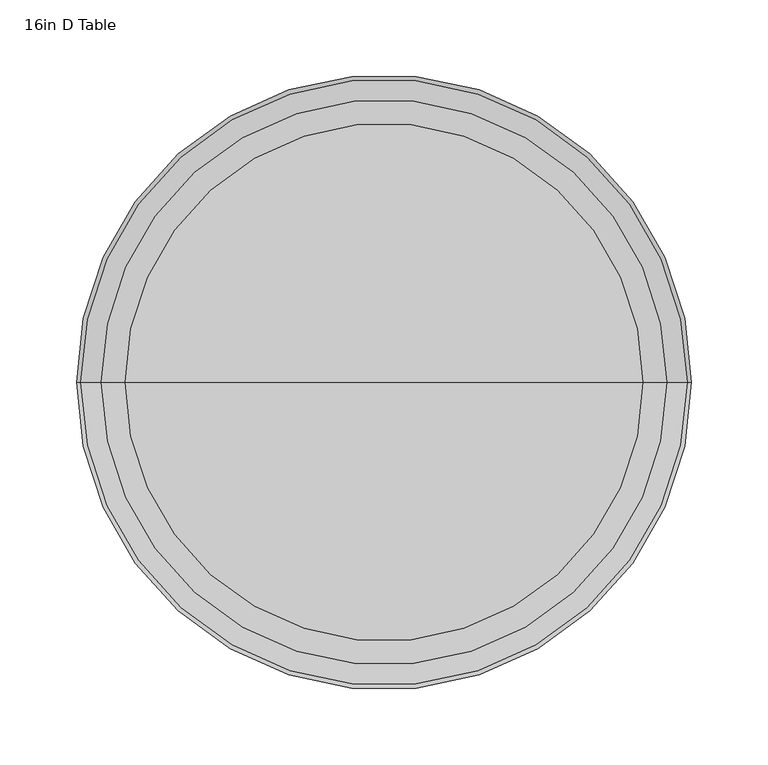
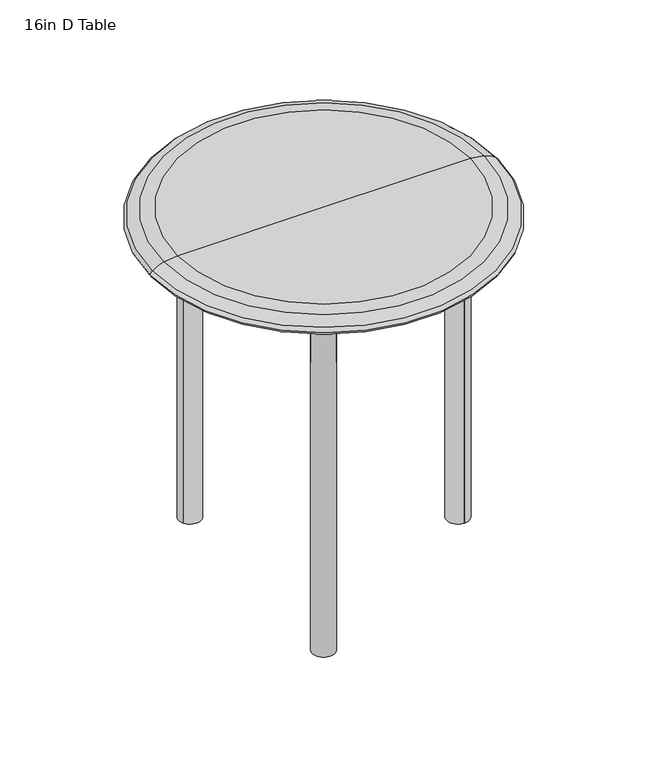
"""IFC4 building model written with IfcOpenShell, lengths in millimetres: furniture geometry, Haworth_Openest_SprigTable_Round : 16in D Table."""

from ifc_helpers import new_model, si_unit, point, frame, frame_2d, origin, place, context, project, spatial, polyline, circle_curve, ellipse_curve, trimmed, segment, composite_curve, outline, extrude, source, transform, mapped, element, save
from ifc_brep_helpers import plane_surface, cylinder_surface, revolved_surface, advanced_brep


def furniture_16in_d_table_f877d0f4(model_context):
    return source(origin(), model_context, "Body", "SolidModel", [
        extrude(outline(composite_curve([segment(polyline([(0.0, 0.0), (0.0, 155.7392297), (15.3769901, 155.7392297), (15.3769901, 40.3602375)]), True, "CONTINUOUS"), segment(trimmed(circle_curve(frame_2d((55.7372276, 40.3602375)), 40.3602375), [point((15.3769901, 40.3602375))], [point((55.7372276, 0.0))], True, "CARTESIAN"), True, "CONTINUOUS"), segment(polyline([(55.7372276, 0.0), (0.0, 0.0)]), True, "CONTINUOUS")], self_intersect=False)), frame((-88.9101098, -127.5088399, 406.7999998), z_axis=(0.8660254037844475, -0.49999999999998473, 0.0), x_axis=(0.0, 0.0, -1.0)), (0.0, 0.0, 1.0), 25.8000589),
        advanced_brep(
        [(-66.508095, -139.907471, 0.0031248), (-88.5051402, -127.207471, 0.0031248), (-88.5051402, -127.207471, 350.6439045), (-66.508095, -139.907471, 350.6439045), (-68.1155876, -91.89173, 391.4230097), (-46.1185424, -104.59173, 391.4230097), (11.1297809, -5.4347254, 391.4230097), (-10.8672643, 7.2652746, 391.4230097)],
        [
            (0, 1),
            (1, 0, circle_curve(frame((-77.5066176, -133.557471, 0.0031248), z_axis=(0.0, 0.0, -1.0), x_axis=(0.49999999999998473, 0.8660254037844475, 0.0)), 12.7)),
            (1, 2),
            (2, 3, circle_curve(frame((-77.5066176, -133.557471, 350.6439045), z_axis=(0.0, 0.0, -1.0), x_axis=(0.49999999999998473, 0.8660254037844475, 0.0)), 12.7)),
            (3, 0),
            (3, 2),
            (4, 5, circle_curve(frame((-57.117065, -98.24173, 391.4230097), z_axis=(-0.49999999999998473, -0.8660254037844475, 0.0), x_axis=(0.0, 0.0, -1.0)), 12.7)),
            (5, 3, circle_curve(frame((-46.1185424, -104.59173, 350.6439045), z_axis=(0.8660254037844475, -0.49999999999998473, 0.0), x_axis=(-0.49999999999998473, -0.8660254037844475, 0.0)), 40.7791052)),
            (2, 4, circle_curve(frame((-68.1155876, -91.89173, 350.6439045), z_axis=(-0.8660254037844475, 0.49999999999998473, 0.0), x_axis=(-0.49999999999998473, -0.8660254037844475, 0.0)), 40.7791052)),
            (5, 4),
            (6, 7, circle_curve(frame((0.1312583, 0.9152746, 391.4230097), z_axis=(0.49999999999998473, 0.8660254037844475, 0.0), x_axis=(0.0, 0.0, -1.0)), 12.7)),
            (7, 6),
            (4, 7),
            (6, 5),
        ],
        [
            plane_surface(frame((-65.9861853, -140.2087957, 0.0031248), z_axis=(0.0, 0.0, -1.0), x_axis=(0.8660254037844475, -0.49999999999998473, 0.0))),
            cylinder_surface(frame((-77.5066176, -133.557471, 0.0031248), z_axis=(0.0, 0.0, -1.0), x_axis=(0.49999999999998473, 0.8660254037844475, 0.0)), 12.7),
            plane_surface(frame((-88.5051402, -127.207471, 0.0031248), z_axis=(-0.4999999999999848, -0.8660254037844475, 0.0), x_axis=(0.0, 0.0, 1.0))),
            revolved_surface(trimmed(ellipse_curve(frame((-77.5066176, -133.557471, 350.6439045), z_axis=(0.0, 0.0, 1.0), x_axis=(0.49999999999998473, 0.8660254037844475, 0.0)), 12.7, 12.7), [point((-66.508095, -139.907471, 350.6439045))], [point((-88.5051402, -127.207471, 350.6439045))], True, "CARTESIAN"), (-45.5966327, -104.8930546, 350.6439045), (0.8660254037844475, -0.49999999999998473, 0.0)),
            cylinder_surface(frame((-45.5966327, -104.8930546, 350.6439045), z_axis=(0.8660254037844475, -0.49999999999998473, 0.0), x_axis=(-0.49999999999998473, -0.8660254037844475, 0.0)), 40.7791052),
            plane_surface(frame((11.6516906, -5.73605, 391.4230097), z_axis=(0.49999999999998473, 0.8660254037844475, 0.0), x_axis=(0.8660254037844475, -0.49999999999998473, 0.0))),
            cylinder_surface(frame((-57.117065, -98.24173, 391.4230097), z_axis=(-0.49999999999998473, -0.8660254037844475, 0.0), x_axis=(0.0, 0.0, -1.0)), 12.7),
            plane_surface(frame((-68.1155876, -91.89173, 391.4230097), z_axis=(0.0, 0.0, 1.0), x_axis=(0.49999999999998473, 0.8660254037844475, 0.0))),
        ],
        [
            (0, [[1, 2]]),
            (1, [[3, 4, 5, -2]]),
            (2, [[-5, 6, -3, -1]]),
            (3, [[7, 8, -4, 9]]),
            (4, [[10, -9, -6, -8]]),
            (5, [[11, 12]]),
            (6, [[13, -11, 14, -7]]),
            (7, [[-14, -12, -13, -10]]),
        ],
    ),
        extrude(outline(composite_curve([segment(trimmed(circle_curve(frame_2d((-77.5066176, -133.557471)), 12.9000295), [point((-66.3348644, -140.0074858))], [point((-88.6783708, -127.1074563))], False, "CARTESIAN"), True, "CONTINUOUS"), segment(polyline([(-88.6783708, -127.1074563), (-66.3348644, -140.0074858)]), True, "CONTINUOUS")], self_intersect=False)), frame((0.0, 0.0, 0.0031248), z_axis=(0.0, 0.0, 1.0), x_axis=(1.0, 0.0, 0.0)), (0.0, 0.0, 1.0), 406.796875),
        extrude(outline(composite_curve([segment(polyline([(0.0, 0.0), (0.0, -155.7392297), (-15.3769901, -155.7392297), (-15.3769901, -40.3602375)]), True, "CONTINUOUS"), segment(trimmed(circle_curve(frame_2d((-55.7372276, -40.3602375)), 40.3602375), [point((-15.3769901, -40.3602375))], [point((-55.7372276, 0.0))], True, "CARTESIAN"), True, "CONTINUOUS"), segment(polyline([(-55.7372276, 0.0), (0.0, 0.0)]), True, "CONTINUOUS")], self_intersect=False)), frame((-66.5666033, 140.4088694, 406.7999998), z_axis=(-0.8660254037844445, -0.49999999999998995, 0.0), x_axis=(0.0, 0.0, 1.0)), (0.0, 0.0, 1.0), 25.8000589),
        advanced_brep(
        [(-66.508095, 139.907471, 0.0031248), (-88.5051402, 127.207471, 0.0031248), (-66.508095, 139.907471, 350.6439045), (-88.5051402, 127.207471, 350.6439045), (-68.1155876, 91.89173, 391.4230097), (-46.1185424, 104.59173, 391.4230097), (11.1297809, 5.4347254, 391.4230097), (-10.8672643, -7.2652746, 391.4230097)],
        [
            (0, 1, circle_curve(frame((-77.5066176, 133.557471, 0.0031248), z_axis=(0.0, 0.0, -1.0), x_axis=(0.49999999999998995, -0.8660254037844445, 0.0)), 12.7)),
            (1, 0),
            (0, 2),
            (2, 3, circle_curve(frame((-77.5066176, 133.557471, 350.6439045), z_axis=(0.0, 0.0, -1.0), x_axis=(0.49999999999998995, -0.8660254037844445, 0.0)), 12.7)),
            (3, 1),
            (3, 2),
            (4, 3, circle_curve(frame((-68.1155876, 91.89173, 350.6439045), z_axis=(-0.8660254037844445, -0.49999999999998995, 0.0), x_axis=(-0.49999999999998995, 0.8660254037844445, 0.0)), 40.7791052)),
            (2, 5, circle_curve(frame((-46.1185424, 104.59173, 350.6439045), z_axis=(0.8660254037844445, 0.49999999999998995, 0.0), x_axis=(-0.49999999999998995, 0.8660254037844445, 0.0)), 40.7791052)),
            (5, 4, circle_curve(frame((-57.117065, 98.24173, 391.4230097), z_axis=(-0.49999999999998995, 0.8660254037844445, 0.0), x_axis=(0.0, 0.0, -1.0)), 12.7)),
            (4, 5),
            (6, 7),
            (7, 6, circle_curve(frame((0.1312583, -0.9152746, 391.4230097), z_axis=(0.49999999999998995, -0.8660254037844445, 0.0), x_axis=(0.0, 0.0, -1.0)), 12.7)),
            (5, 6),
            (7, 4),
        ],
        [
            plane_surface(frame((-65.9861853, 140.2087957, 0.0031248), z_axis=(0.0, 0.0, -1.0), x_axis=(0.8660254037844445, 0.49999999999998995, 0.0))),
            cylinder_surface(frame((-77.5066176, 133.557471, 0.0031248), z_axis=(0.0, 0.0, -1.0), x_axis=(0.49999999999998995, -0.8660254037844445, 0.0)), 12.7),
            plane_surface(frame((-88.5051402, 127.207471, 0.0031248), z_axis=(-0.49999999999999, 0.8660254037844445, 0.0), x_axis=(0.0, 0.0, 1.0))),
            revolved_surface(trimmed(ellipse_curve(frame((-77.5066176, 133.557471, 350.6439045), z_axis=(0.0, 0.0, -1.0), x_axis=(0.49999999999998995, -0.8660254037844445, 0.0)), 12.7, 12.7), [point((-66.508095, 139.907471, 350.6439045))], [point((-88.5051402, 127.207471, 350.6439045))], True, "CARTESIAN"), (-45.5966327, 104.8930546, 350.6439045), (0.8660254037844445, 0.49999999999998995, 0.0)),
            cylinder_surface(frame((-45.5966327, 104.8930546, 350.6439045), z_axis=(0.8660254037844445, 0.49999999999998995, 0.0), x_axis=(-0.49999999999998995, 0.8660254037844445, 0.0)), 40.7791052),
            plane_surface(frame((11.6516906, 5.73605, 391.4230097), z_axis=(0.49999999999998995, -0.8660254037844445, 0.0), x_axis=(0.8660254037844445, 0.49999999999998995, 0.0))),
            cylinder_surface(frame((-57.117065, 98.24173, 391.4230097), z_axis=(-0.49999999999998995, 0.8660254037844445, 0.0), x_axis=(0.0, 0.0, -1.0)), 12.7),
            plane_surface(frame((-68.1155876, 91.89173, 391.4230097), z_axis=(0.0, 0.0, 1.0), x_axis=(0.49999999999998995, -0.8660254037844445, 0.0))),
        ],
        [
            (0, [[1, 2]]),
            (1, [[-1, 3, 4, 5]]),
            (2, [[-2, -5, 6, -3]]),
            (3, [[7, -4, 8, 9]]),
            (4, [[-8, -6, -7, 10]]),
            (5, [[11, 12]]),
            (6, [[-9, 13, -12, 14]]),
            (7, [[-10, -14, -11, -13]]),
        ],
    ),
        extrude(outline(composite_curve([segment(polyline([(-66.3348644, 140.0074858), (-88.6783708, 127.1074563)]), True, "CONTINUOUS"), segment(trimmed(circle_curve(frame_2d((-77.5066176, 133.557471)), 12.9000295), [point((-88.6783708, 127.1074563))], [point((-66.3348644, 140.0074858))], False, "CARTESIAN"), True, "CONTINUOUS")], self_intersect=False)), frame((0.0, 0.0, 0.0031248), z_axis=(0.0, 0.0, 1.0), x_axis=(1.0, 0.0, 0.0)), (0.0, 0.0, 1.0), 406.796875),
        advanced_brep(
        [(154.8809495, -13.2439937, 406.7999998), (-0.8582802, -13.2439937, 406.7999998), (-0.8582802, -13.2439937, 391.4230097), (114.520712, -13.2439937, 391.4230097), (154.8809495, -13.2439937, 351.0627722), (154.8809495, 12.5560652, 406.7999998), (154.8809495, 12.5560652, 351.0627722), (114.520712, 12.5560652, 391.4230097), (-0.8582802, 12.5560652, 391.4230097), (-0.8582802, 12.5560652, 406.7999998)],
        [
            (0, 1),
            (1, 2),
            (2, 3),
            (3, 4, circle_curve(frame((114.520712, -13.2439937, 351.0627722), z_axis=(0.0, 1.0, 0.0), x_axis=(-1.0, 0.0, 0.0)), 40.3602375)),
            (4, 0),
            (5, 6),
            (6, 7, circle_curve(frame((114.520712, 12.5560652, 351.0627722), z_axis=(0.0, -1.0, 0.0), x_axis=(-1.0, 0.0, 0.0)), 40.3602375)),
            (7, 8),
            (8, 9),
            (9, 5),
            (4, 6),
            (5, 0),
            (3, 7),
            (2, 8),
            (1, 9),
        ],
        [
            plane_surface(frame((154.8809495, -13.2439937, 406.7999998), z_axis=(0.0, -1.0, 0.0), x_axis=(0.0, 0.0, -1.0))),
            plane_surface(frame((154.8809495, 12.5560652, 406.7999998), z_axis=(0.0, 1.0, 0.0), x_axis=(0.0, 0.0, 1.0))),
            plane_surface(frame((154.8809495, -13.2439937, 406.7999998), z_axis=(1.0, 0.0, 0.0), x_axis=(0.0, 1.0, 0.0))),
            revolved_surface(polyline([(74.1604745, 12.5560652, 351.0627722), (74.1604745, -13.243993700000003, 351.0627722)]), (114.520712, 12.5560652, 351.0627722), (0.0, 1.0, 0.0)),
            plane_surface(frame((114.520712, -13.2439937, 391.4230097), z_axis=(0.0, 0.0, -1.0), x_axis=(0.0, 1.0, 0.0))),
            plane_surface(frame((-0.8582802, -13.2439937, 391.4230097), z_axis=(-1.0, 0.0, 0.0), x_axis=(0.0, 1.0, 0.0))),
            plane_surface(frame((-0.8582802, -13.2439937, 406.7999998), z_axis=(0.0, 0.0, 1.0), x_axis=(0.0, 1.0, 0.0))),
        ],
        [
            (0, [[1, 2, 3, 4, 5]]),
            (1, [[6, 7, 8, 9, 10]]),
            (2, [[11, -6, 12, -5]]),
            (3, [[13, -7, -11, -4]]),
            (4, [[14, -8, -13, -3]]),
            (5, [[15, -9, -14, -2]]),
            (6, [[-12, -10, -15, -1]]),
        ],
    ),
        advanced_brep(
        [(154.4174716, 12.3560357, 0.0031248), (154.4174716, -13.0439643, 0.0031248), (154.4174716, -13.0439643, 350.6439045), (154.4174716, 12.3560357, 350.6439045), (113.6383663, -13.0439643, 391.4230097), (113.6383663, 12.3560357, 391.4230097), (-0.8582802, 12.3560357, 391.4230097), (-0.8582802, -13.0439643, 391.4230097)],
        [
            (0, 1),
            (1, 0, circle_curve(frame((154.4174716, -0.3439643, 0.0031248), z_axis=(0.0, 0.0, -1.0), x_axis=(-1.0, 0.0, 0.0)), 12.7)),
            (1, 2),
            (2, 3, circle_curve(frame((154.4174716, -0.3439643, 350.6439045), z_axis=(0.0, 0.0, -1.0), x_axis=(-1.0, 0.0, 0.0)), 12.7)),
            (3, 0),
            (3, 2),
            (4, 5, circle_curve(frame((113.6383663, -0.3439643, 391.4230097), z_axis=(1.0, 0.0, 0.0), x_axis=(0.0, 0.0, -1.0)), 12.7)),
            (5, 3, circle_curve(frame((113.6383663, 12.3560357, 350.6439045), z_axis=(0.0, 1.0, 0.0), x_axis=(1.0, 0.0, 0.0)), 40.7791052)),
            (2, 4, circle_curve(frame((113.6383663, -13.0439643, 350.6439045), z_axis=(0.0, -1.0, 0.0), x_axis=(1.0, 0.0, 0.0)), 40.7791052)),
            (5, 4),
            (6, 7, circle_curve(frame((-0.8582802, -0.3439643, 391.4230097), z_axis=(-1.0, 0.0, 0.0), x_axis=(0.0, 0.0, -1.0)), 12.7)),
            (7, 6),
            (4, 7),
            (6, 5),
        ],
        [
            plane_surface(frame((154.4174716, 12.958685, 0.0031248), z_axis=(0.0, 0.0, -1.0), x_axis=(0.0, 1.0, 0.0))),
            cylinder_surface(frame((154.4174716, -0.3439643, 0.0031248), z_axis=(0.0, 0.0, -1.0), x_axis=(-1.0, 0.0, 0.0)), 12.7),
            plane_surface(frame((154.4174716, -13.0439643, 0.0031248), z_axis=(1.0, 0.0, 0.0), x_axis=(0.0, 0.0, 1.0))),
            revolved_surface(trimmed(ellipse_curve(frame((154.4174716, -0.3439643, 350.6439045), z_axis=(0.0, 0.0, 1.0), x_axis=(-1.0, 0.0, 0.0)), 12.7, 12.7), [point((154.4174716, 12.3560357, 350.6439045))], [point((154.4174716, -13.0439643, 350.6439045))], True, "CARTESIAN"), (113.6383663, 12.958685, 350.6439045), (0.0, 1.0, 0.0)),
            cylinder_surface(frame((113.6383663, 12.958685, 350.6439045), z_axis=(0.0, 1.0, 0.0), x_axis=(1.0, 0.0, 0.0)), 40.7791052),
            plane_surface(frame((-0.8582802, 12.958685, 391.4230097), z_axis=(-1.0, 0.0, 0.0), x_axis=(0.0, 1.0, 0.0))),
            cylinder_surface(frame((113.6383663, -0.3439643, 391.4230097), z_axis=(1.0, 0.0, 0.0), x_axis=(0.0, 0.0, -1.0)), 12.7),
            plane_surface(frame((113.6383663, -13.0439643, 391.4230097), z_axis=(0.0, 0.0, 1.0), x_axis=(-1.0, 0.0, 0.0))),
        ],
        [
            (0, [[1, 2]]),
            (1, [[3, 4, 5, -2]]),
            (2, [[-5, 6, -3, -1]]),
            (3, [[7, 8, -4, 9]]),
            (4, [[10, -9, -6, -8]]),
            (5, [[11, 12]]),
            (6, [[13, -11, 14, -7]]),
            (7, [[-14, -12, -13, -10]]),
        ],
    ),
        extrude(outline(composite_curve([segment(trimmed(circle_curve(frame_2d((154.4174716, -0.3439643)), 12.9000295), [point((154.4174716, 12.5560652))], [point((154.4174716, -13.2439937))], False, "CARTESIAN"), True, "CONTINUOUS"), segment(polyline([(154.4174716, -13.2439937), (154.4174716, 12.5560652)]), True, "CONTINUOUS")], self_intersect=False)), frame((0.0, 0.0, 0.0031248), z_axis=(0.0, 0.0, 1.0), x_axis=(1.0, 0.0, 0.0)), (0.0, 0.0, 1.0), 406.796875),
        advanced_brep(
        [(169.0459554, 0.0, 431.8), (-169.0459554, 0.0, 431.8), (0.0, 0.0, 431.8), (184.6187293, 0.0, 429.6461404), (-184.6187293, 0.0, 429.6461404), (197.9469444, 0.0, 423.4310916), (-197.9469444, 0.0, 423.4310916), (200.8395659, 0.0, 419.2999999), (-200.8395659, 0.0, 419.2999999), (197.9469444, 0.0, 415.1689082), (-197.9469444, 0.0, 415.1689082), (184.6187293, 0.0, 408.9538594), (-184.6187293, 0.0, 408.9538594), (169.0459554, 0.0, 406.7999998), (-169.0459554, 0.0, 406.7999998), (0.0, 0.0, 406.7999998)],
        [
            (0, 1, circle_curve(frame((0.0, 0.0, 431.8), z_axis=(0.0, 0.0, 1.0), x_axis=(-1.0, 0.0, 0.0)), 169.0459554)),
            (1, 2),
            (2, 0),
            (1, 0, circle_curve(frame((0.0, 0.0, 431.8), z_axis=(0.0, 0.0, 1.0), x_axis=(-1.0, 0.0, 0.0)), 169.0459554)),
            (3, 4, circle_curve(frame((0.0, 0.0, 429.6461404), z_axis=(0.0, 0.0, 1.0), x_axis=(-1.0, 0.0, 0.0)), 184.6187293)),
            (4, 1, circle_curve(frame((-164.5229782, 0.0, 341.7242603), z_axis=(0.0, 1.0, 0.0), x_axis=(1.0, 0.0, 0.0)), 90.1892245)),
            (0, 3, circle_curve(frame((164.5229782, 0.0, 341.7242603), z_axis=(0.0, 1.0, 0.0), x_axis=(-1.0, 0.0, 0.0)), 90.1892245)),
            (4, 3, circle_curve(frame((0.0, 0.0, 429.6461404), z_axis=(0.0, 0.0, 1.0), x_axis=(-1.0, 0.0, 0.0)), 184.6187293)),
            (5, 6, circle_curve(frame((0.0, 0.0, 423.4310916), z_axis=(0.0, 0.0, 1.0), x_axis=(-1.0, 0.0, 0.0)), 197.9469444)),
            (6, 4, circle_curve(frame((-176.818841, 0.0, 395.5204769), z_axis=(0.0, 1.0, 0.0), x_axis=(1.0, 0.0, 0.0)), 35.0057019)),
            (3, 5, circle_curve(frame((176.818841, 0.0, 395.5204769), z_axis=(0.0, 1.0, 0.0), x_axis=(-1.0, 0.0, 0.0)), 35.0057019)),
            (6, 5, circle_curve(frame((0.0, 0.0, 423.4310916), z_axis=(0.0, 0.0, 1.0), x_axis=(-1.0, 0.0, 0.0)), 197.9469444)),
            (7, 8, circle_curve(frame((0.0, 0.0, 419.2999999), z_axis=(0.0, 0.0, 1.0), x_axis=(-1.0, 0.0, 0.0)), 200.8395659)),
            (8, 6, circle_curve(frame((-192.9884886, 0.0, 416.8808799), z_axis=(0.0, 1.0, 0.0), x_axis=(1.0, 0.0, 0.0)), 8.2153245)),
            (5, 7, circle_curve(frame((192.9884886, 0.0, 416.8808799), z_axis=(0.0, 1.0, 0.0), x_axis=(-1.0, 0.0, 0.0)), 8.2153245)),
            (8, 7, circle_curve(frame((0.0, 0.0, 419.2999999), z_axis=(0.0, 0.0, 1.0), x_axis=(-1.0, 0.0, 0.0)), 200.8395659)),
            (9, 10, circle_curve(frame((0.0, 0.0, 415.1689082), z_axis=(0.0, 0.0, 1.0), x_axis=(-1.0, 0.0, 0.0)), 197.9469444)),
            (10, 8, circle_curve(frame((-192.9884886, 0.0, 421.7191199), z_axis=(0.0, 1.0, 0.0), x_axis=(1.0, 0.0, 0.0)), 8.2153245)),
            (7, 9, circle_curve(frame((192.9884886, 0.0, 421.7191199), z_axis=(0.0, 1.0, 0.0), x_axis=(-1.0, 0.0, 0.0)), 8.2153245)),
            (10, 9, circle_curve(frame((0.0, 0.0, 415.1689082), z_axis=(0.0, 0.0, 1.0), x_axis=(-1.0, 0.0, 0.0)), 197.9469444)),
            (11, 12, circle_curve(frame((0.0, 0.0, 408.9538594), z_axis=(0.0, 0.0, 1.0), x_axis=(-1.0, 0.0, 0.0)), 184.6187293)),
            (12, 10, circle_curve(frame((-176.818841, 0.0, 443.0795229), z_axis=(0.0, 1.0, 0.0), x_axis=(1.0, 0.0, 0.0)), 35.0057019)),
            (9, 11, circle_curve(frame((176.818841, 0.0, 443.0795229), z_axis=(0.0, 1.0, 0.0), x_axis=(-1.0, 0.0, 0.0)), 35.0057019)),
            (12, 11, circle_curve(frame((0.0, 0.0, 408.9538594), z_axis=(0.0, 0.0, 1.0), x_axis=(-1.0, 0.0, 0.0)), 184.6187293)),
            (13, 14, circle_curve(frame((0.0, 0.0, 406.7999998), z_axis=(0.0, 0.0, 1.0), x_axis=(-1.0, 0.0, 0.0)), 169.0459554)),
            (14, 12, circle_curve(frame((-164.5229782, 0.0, 496.8757395), z_axis=(0.0, 1.0, 0.0), x_axis=(1.0, 0.0, 0.0)), 90.1892245)),
            (11, 13, circle_curve(frame((164.5229782, 0.0, 496.8757395), z_axis=(0.0, 1.0, 0.0), x_axis=(-1.0, 0.0, 0.0)), 90.1892245)),
            (14, 13, circle_curve(frame((0.0, 0.0, 406.7999998), z_axis=(0.0, 0.0, 1.0), x_axis=(-1.0, 0.0, 0.0)), 169.0459554)),
            (15, 14),
            (13, 15),
        ],
        [
            plane_surface(frame((0.0, 0.0, 431.8), z_axis=(0.0, 0.0, 1.0), x_axis=(-1.0, 0.0, 0.0))),
            revolved_surface(trimmed(ellipse_curve(frame((-164.5229782, 0.0, 341.7242603), z_axis=(0.0, -1.0, 0.0), x_axis=(1.0, 0.0, 0.0)), 90.1892245, 90.1892245), [point((-169.0459554, 0.0, 431.8))], [point((-184.6187293, 0.0, 429.6461404))], True, "CARTESIAN"), (0.0, 0.0, 2421.4288111), (0.0, 0.0, -1.0)),
            revolved_surface(trimmed(ellipse_curve(frame((-176.818841, 0.0, 395.5204769), z_axis=(0.0, -1.0, 0.0), x_axis=(1.0, 0.0, 0.0)), 35.0057019, 35.0057019), [point((-184.6187293, 0.0, 429.6461404))], [point((-197.9469444, 0.0, 423.4310916))], True, "CARTESIAN"), (0.0, 0.0, 2421.4288111), (0.0, 0.0, -1.0)),
            revolved_surface(trimmed(ellipse_curve(frame((-192.9884886, 0.0, 416.8808799), z_axis=(0.0, -1.0, 0.0), x_axis=(1.0, 0.0, 0.0)), 8.2153245, 8.2153245), [point((-197.9469444, 0.0, 423.4310916))], [point((-200.8395659, 0.0, 419.2999999))], True, "CARTESIAN"), (0.0, 0.0, 2421.4288111), (0.0, 0.0, -1.0)),
            revolved_surface(trimmed(ellipse_curve(frame((-192.9884886, 0.0, 421.7191199), z_axis=(0.0, -1.0, 0.0), x_axis=(1.0, 0.0, 0.0)), 8.2153245, 8.2153245), [point((-200.8395659, 0.0, 419.2999999))], [point((-197.9469444, 0.0, 415.1689082))], True, "CARTESIAN"), (0.0, 0.0, 2421.4288111), (0.0, 0.0, -1.0)),
            revolved_surface(trimmed(ellipse_curve(frame((-176.818841, 0.0, 443.0795229), z_axis=(0.0, -1.0, 0.0), x_axis=(1.0, 0.0, 0.0)), 35.0057019, 35.0057019), [point((-197.9469444, 0.0, 415.1689082))], [point((-184.6187293, 0.0, 408.9538594))], True, "CARTESIAN"), (0.0, 0.0, 2421.4288111), (0.0, 0.0, -1.0)),
            revolved_surface(trimmed(ellipse_curve(frame((-164.5229782, 0.0, 496.8757395), z_axis=(0.0, -1.0, 0.0), x_axis=(1.0, 0.0, 0.0)), 90.1892245, 90.1892245), [point((-184.6187293, 0.0, 408.9538594))], [point((-169.0459554, 0.0, 406.7999998))], True, "CARTESIAN"), (0.0, 0.0, 2421.4288111), (0.0, 0.0, -1.0)),
            plane_surface(frame((0.0, 0.0, 406.7999998), z_axis=(0.0, 0.0, -1.0), x_axis=(-1.0, 0.0, 0.0))),
        ],
        [
            (0, [[1, 2, 3]]),
            (0, [[4, -3, -2]]),
            (1, [[5, 6, -1, 7]]),
            (1, [[8, -7, -4, -6]]),
            (2, [[9, 10, -5, 11]]),
            (2, [[12, -11, -8, -10]]),
            (3, [[13, 14, -9, 15]]),
            (3, [[16, -15, -12, -14]]),
            (4, [[17, 18, -13, 19]]),
            (4, [[20, -19, -16, -18]]),
            (5, [[21, 22, -17, 23]]),
            (5, [[24, -23, -20, -22]]),
            (6, [[25, 26, -21, 27]]),
            (6, [[28, -27, -24, -26]]),
            (7, [[29, -25, 30]]),
            (7, [[-30, -28, -29]]),
        ],
    ),
    ])


if __name__ == "__main__":
    model = new_model("IFC4")
    model_context = context("Model", 3, world=origin())
    ifc_project = project(units=[si_unit("LENGTHUNIT", "METRE", prefix="MILLI")], contexts=[model_context])
    site = spatial("IfcSite", under=ifc_project)
    building = spatial("IfcBuilding", under=site)
    placement = place(None, origin())
    furniture_16in_d_table_shape = furniture_16in_d_table_f877d0f4(model_context)
    element("IfcFurniture", 1, ObjectType="Haworth_Openest_SprigTable_Round : 16in D Table", at=placement, inside=building, context=model_context, shape_type="MappedRepresentation", body=[
        mapped(furniture_16in_d_table_shape, transform((0.0, 0.0, 0.0), x_axis=(1.0, 0.0, 0.0), y_axis=(0.0, 1.0, 0.0), z_axis=(0.0, 0.0, 1.0))),
    ])
    save(model, "model.ifc")
